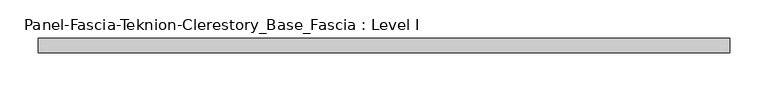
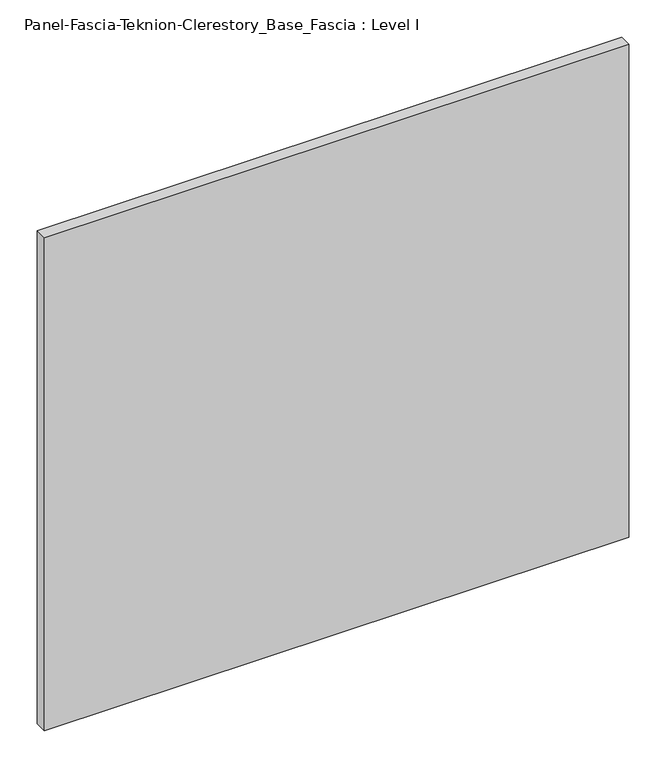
"""IFC4 building model written with IfcOpenShell, lengths in millimetres: proxy geometry, Panel-Fascia-Teknion-Clerestory_Base_Fascia : Level I."""

from ifc_helpers import new_model, si_unit, frame, origin, place, context, project, spatial, polyline, outline, extrude, source, transform, mapped, element, save


def panel_fascia_teknion_clerestory_base_fascia_level_i_78e5e170(model_context):
    return source(origin(), model_context, "Body", "SweptSolid", [
        extrude(outline(polyline([(454.6147563, -9.525), (-454.6147562, -9.525), (-454.6147562, 9.525), (454.6147563, 9.525), (454.6147563, -9.525)])), frame((0.0, 0.0, 3.175), z_axis=(0.0, 0.0, 1.0), x_axis=(1.0, 0.0, 0.0)), (0.0, 0.0, 1.0), 810.768),
    ])


if __name__ == "__main__":
    model = new_model("IFC4")
    model_context = context("Model", 3, world=origin())
    ifc_project = project(units=[si_unit("LENGTHUNIT", "METRE", prefix="MILLI")], contexts=[model_context])
    site = spatial("IfcSite", under=ifc_project)
    building = spatial("IfcBuilding", under=site)
    placement = place(None, origin())
    panel_fascia_teknion_clerestory_base_fascia_level_i_shape = panel_fascia_teknion_clerestory_base_fascia_level_i_78e5e170(model_context)
    element("IfcBuildingElementProxy", 1, Name="Panel-Fascia-Teknion-Clerestory_Base_Fascia : Level I", ObjectType="Panel-Fascia-Teknion-Clerestory_Base_Fascia : Level I", at=placement, inside=building, context=model_context, shape_type="MappedRepresentation", body=[
        mapped(panel_fascia_teknion_clerestory_base_fascia_level_i_shape, transform((0.0, 0.0, 0.0), x_axis=(1.0, 0.0, 0.0), y_axis=(0.0, 1.0, 0.0), z_axis=(0.0, 0.0, 1.0))),
    ])
    save(model, "model.ifc")
